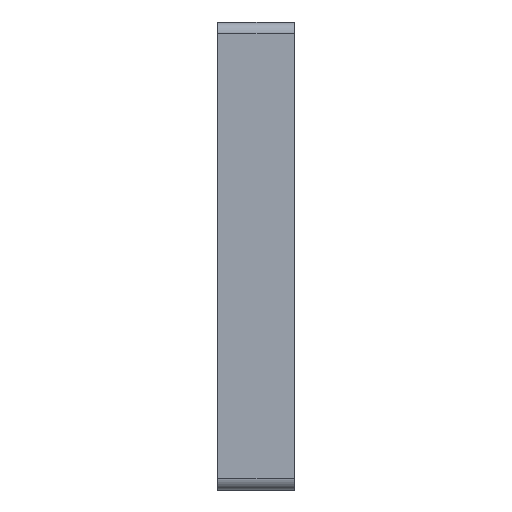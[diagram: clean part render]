
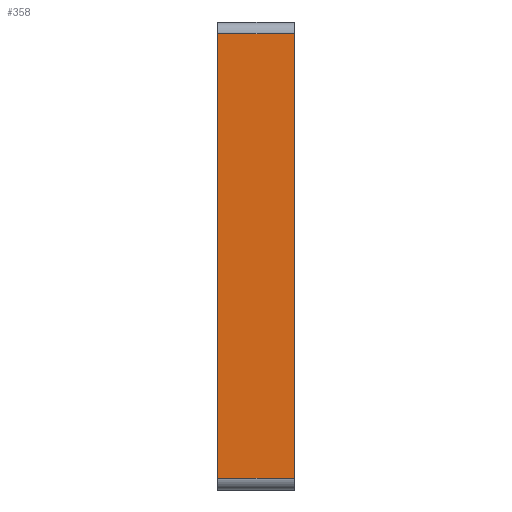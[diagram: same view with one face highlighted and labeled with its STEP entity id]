
A CAD part, left-side view. The second image highlights one B-rep face of the part: STEP entity #358.
In plain terms, the highlighted planar face has unit normal (-1, 0, 0).
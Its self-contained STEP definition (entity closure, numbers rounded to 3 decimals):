
#20 = CARTESIAN_POINT ( 'NONE',  ( 0., 13., -2. ) ) ;
#25 = VERTEX_POINT ( 'NONE', #20 ) ;
#43 = DIRECTION ( 'NONE',  ( 1., 0., 0. ) ) ;
#99 = DIRECTION ( 'NONE',  ( 0., 0., 1. ) ) ;
#143 = LINE ( 'NONE', #798, #254 ) ;
#150 = VECTOR ( 'NONE', #689, 1000. ) ;
#163 = ORIENTED_EDGE ( 'NONE', *, *, #1038, .T. ) ;
#240 = AXIS2_PLACEMENT_3D ( 'NONE', #652, #43, #923 ) ;
#254 = VECTOR ( 'NONE', #1263, 1000. ) ;
#297 = VERTEX_POINT ( 'NONE', #1255 ) ;
#309 = EDGE_CURVE ( 'NONE', #762, #25, #642, .T. ) ;
#322 = EDGE_LOOP ( 'NONE', ( #1431, #353, #163, #873 ) ) ;
#353 = ORIENTED_EDGE ( 'NONE', *, *, #417, .T. ) ;
#358 = ADVANCED_FACE ( 'NONE', ( #660 ), #1422, .F. ) ;
#417 = EDGE_CURVE ( 'NONE', #762, #297, #143, .T. ) ;
#450 = VECTOR ( 'NONE', #99, 1000. ) ;
#498 = EDGE_CURVE ( 'NONE', #1331, #25, #1556, .T. ) ;
#642 = LINE ( 'NONE', #1362, #699 ) ;
#652 = CARTESIAN_POINT ( 'NONE',  ( 0., 13., 0. ) ) ;
#660 = FACE_OUTER_BOUND ( 'NONE', #322, .T. ) ;
#689 = DIRECTION ( 'NONE',  ( 0., 1., 0. ) ) ;
#699 = VECTOR ( 'NONE', #871, 1000. ) ;
#762 = VERTEX_POINT ( 'NONE', #1536 ) ;
#798 = CARTESIAN_POINT ( 'NONE',  ( 0., 13., -78. ) ) ;
#851 = LINE ( 'NONE', #1001, #450 ) ;
#871 = DIRECTION ( 'NONE',  ( 0., 0., 1. ) ) ;
#873 = ORIENTED_EDGE ( 'NONE', *, *, #498, .T. ) ;
#923 = DIRECTION ( 'NONE',  ( 0., 0., -1. ) ) ;
#1001 = CARTESIAN_POINT ( 'NONE',  ( 0., 0., 0. ) ) ;
#1038 = EDGE_CURVE ( 'NONE', #297, #1331, #851, .T. ) ;
#1058 = CARTESIAN_POINT ( 'NONE',  ( 0., 0., -2. ) ) ;
#1255 = CARTESIAN_POINT ( 'NONE',  ( 0., 0., -78. ) ) ;
#1263 = DIRECTION ( 'NONE',  ( 0., -1., 0. ) ) ;
#1331 = VERTEX_POINT ( 'NONE', #1058 ) ;
#1362 = CARTESIAN_POINT ( 'NONE',  ( 0., 13., 0. ) ) ;
#1422 = PLANE ( 'NONE',  #240 ) ;
#1431 = ORIENTED_EDGE ( 'NONE', *, *, #309, .F. ) ;
#1536 = CARTESIAN_POINT ( 'NONE',  ( 0., 13., -78. ) ) ;
#1556 = LINE ( 'NONE', #1569, #150 ) ;
#1569 = CARTESIAN_POINT ( 'NONE',  ( 0., 13., -2. ) ) ;
